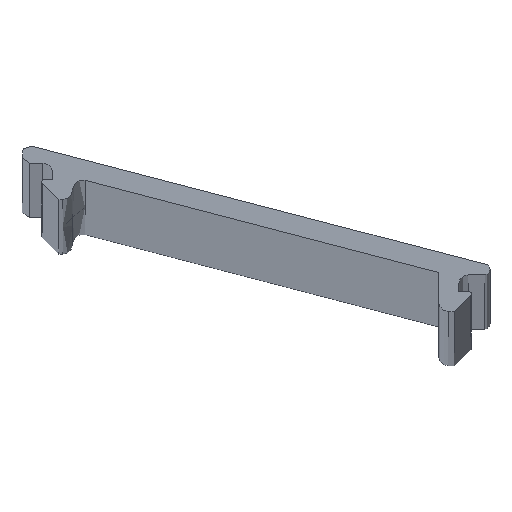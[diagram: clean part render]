
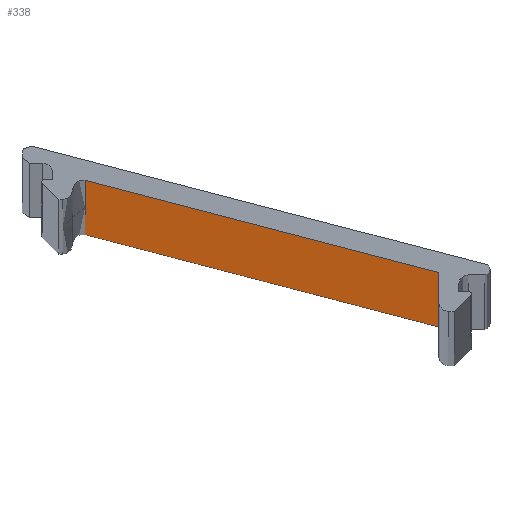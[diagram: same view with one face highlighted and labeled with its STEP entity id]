
A CAD part, top view. The second image highlights one B-rep face of the part: STEP entity #338.
In plain terms, the highlighted planar face has unit normal (-0.252, -0.968, 0).
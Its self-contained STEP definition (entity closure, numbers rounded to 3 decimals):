
#20 = VERTEX_POINT ( 'NONE', #814 ) ;
#36 = PLANE ( 'NONE',  #944 ) ;
#43 = CARTESIAN_POINT ( 'NONE',  ( -8.624, 14.626, -177.3 ) ) ;
#85 = LINE ( 'NONE', #557, #892 ) ;
#109 = VERTEX_POINT ( 'NONE', #529 ) ;
#131 = ORIENTED_EDGE ( 'NONE', *, *, #612, .T. ) ;
#174 = DIRECTION ( 'NONE',  ( 0., 0., -1. ) ) ;
#182 = VERTEX_POINT ( 'NONE', #848 ) ;
#187 = FACE_OUTER_BOUND ( 'NONE', #513, .T. ) ;
#210 = ORIENTED_EDGE ( 'NONE', *, *, #707, .F. ) ;
#230 = VECTOR ( 'NONE', #708, 1000. ) ;
#239 = VERTEX_POINT ( 'NONE', #716 ) ;
#267 = EDGE_CURVE ( 'NONE', #806, #239, #740, .T. ) ;
#271 = CARTESIAN_POINT ( 'NONE',  ( -8.624, 14.626, 787.4 ) ) ;
#289 = EDGE_CURVE ( 'NONE', #20, #806, #85, .T. ) ;
#310 = VECTOR ( 'NONE', #722, 1000. ) ;
#338 = ADVANCED_FACE ( 'NONE', ( #187 ), #36, .T. ) ;
#353 = CARTESIAN_POINT ( 'NONE',  ( -8.624, 14.626, 787.4 ) ) ;
#402 = EDGE_CURVE ( 'NONE', #109, #20, #825, .T. ) ;
#444 = DIRECTION ( 'NONE',  ( 0., 0., -1. ) ) ;
#498 = DIRECTION ( 'NONE',  ( -0.252, -0.968, 0. ) ) ;
#513 = EDGE_LOOP ( 'NONE', ( #696, #131, #210, #568, #969 ) ) ;
#517 = LINE ( 'NONE', #353, #923 ) ;
#529 = CARTESIAN_POINT ( 'NONE',  ( -8.624, 14.626, 787.4 ) ) ;
#552 = VECTOR ( 'NONE', #444, 1000. ) ;
#557 = CARTESIAN_POINT ( 'NONE',  ( -8.624, 14.626, -177.3 ) ) ;
#568 = ORIENTED_EDGE ( 'NONE', *, *, #402, .T. ) ;
#612 = EDGE_CURVE ( 'NONE', #239, #182, #994, .T. ) ;
#650 = DIRECTION ( 'NONE',  ( 0.968, -0.252, 0. ) ) ;
#658 = DIRECTION ( 'NONE',  ( 0.968, -0.252, 0. ) ) ;
#696 = ORIENTED_EDGE ( 'NONE', *, *, #267, .T. ) ;
#707 = EDGE_CURVE ( 'NONE', #109, #182, #517, .T. ) ;
#708 = DIRECTION ( 'NONE',  ( 0.968, -0.252, 0. ) ) ;
#716 = CARTESIAN_POINT ( 'NONE',  ( 9.25, 9.967, -787.4 ) ) ;
#722 = DIRECTION ( 'NONE',  ( 0., 0., 1. ) ) ;
#740 = LINE ( 'NONE', #785, #230 ) ;
#785 = CARTESIAN_POINT ( 'NONE',  ( -10.557, 15.13, -787.4 ) ) ;
#806 = VERTEX_POINT ( 'NONE', #957 ) ;
#814 = CARTESIAN_POINT ( 'NONE',  ( -8.624, 14.626, 0. ) ) ;
#825 = LINE ( 'NONE', #271, #552 ) ;
#848 = CARTESIAN_POINT ( 'NONE',  ( 9.25, 9.967, 787.4 ) ) ;
#892 = VECTOR ( 'NONE', #174, 1000. ) ;
#923 = VECTOR ( 'NONE', #658, 1000. ) ;
#941 = CARTESIAN_POINT ( 'NONE',  ( 9.25, 9.967, -177.3 ) ) ;
#944 = AXIS2_PLACEMENT_3D ( 'NONE', #43, #498, #650 ) ;
#957 = CARTESIAN_POINT ( 'NONE',  ( -8.624, 14.626, -787.4 ) ) ;
#969 = ORIENTED_EDGE ( 'NONE', *, *, #289, .T. ) ;
#994 = LINE ( 'NONE', #941, #310 ) ;
